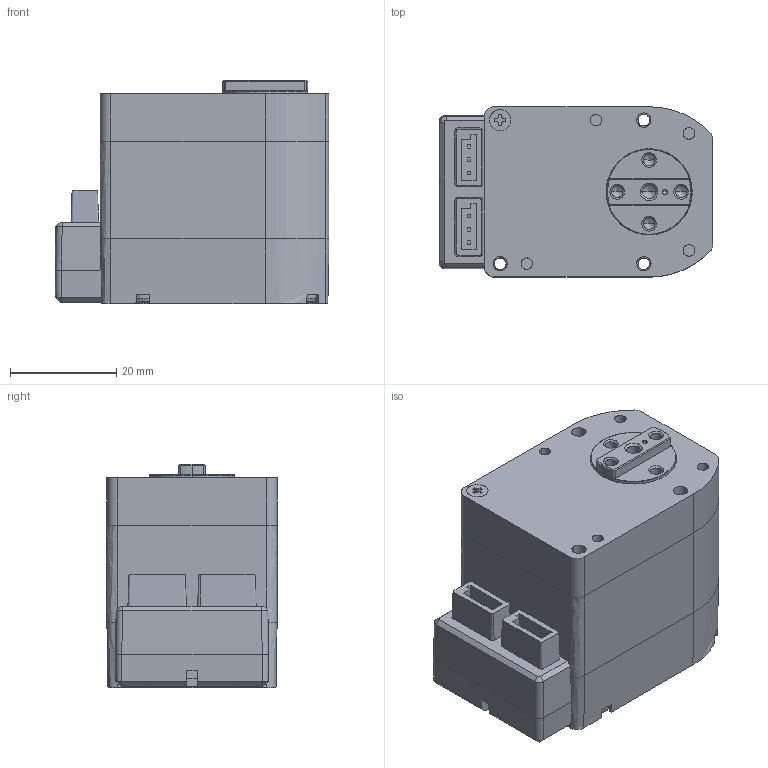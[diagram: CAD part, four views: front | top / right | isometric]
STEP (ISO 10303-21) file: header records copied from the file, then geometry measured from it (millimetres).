
FILE_DESCRIPTION (( 'STEP AP214' ), '1' );
FILE_NAME ('KRS-9304 Assy 公開用.STEP', '2024-09-26T08:12:20', ( '' ), ( '' ), 'SwSTEP 2.0', 'SolidWorks 2021', '' );
FILE_SCHEMA (( 'AUTOMOTIVE_DESIGN' ));
Length unit declared in the file: millimetre
Products named in the file (1): KRS-9304 Assy 公開用
Bounding box: 51.5 x 32 x 42 mm (x, y, z)
Volume: 55555.4 mm3; surface area: 15009.4 mm2
Topology: 7 solids, 7 shells, 443 faces, 1086 edges, 686 vertices
Faces by surface type: bspline 225, plane 218
Entity records: 13981 total; most frequent: CARTESIAN_POINT 6988, ORIENTED_EDGE 2148, EDGE_CURVE 1074, VERTEX_POINT 686, B_SPLINE_CURVE_WITH_KNOTS 646, EDGE_LOOP 500, ADVANCED_FACE 443, FACE_OUTER_BOUND 443
